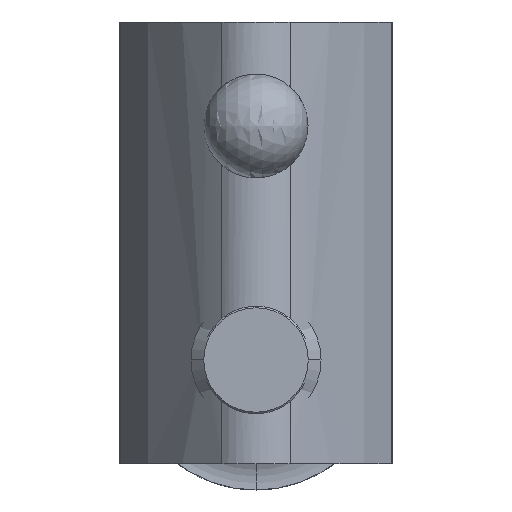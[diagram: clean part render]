
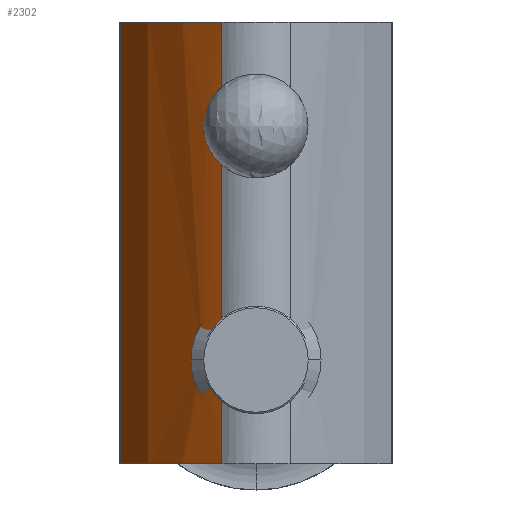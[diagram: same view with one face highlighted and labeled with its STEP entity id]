
A CAD part, left-side view. The second image highlights one B-rep face of the part: STEP entity #2302.
In plain terms, the highlighted cylindrical face has radius 16 mm (diameter 32 mm), a partial arc.
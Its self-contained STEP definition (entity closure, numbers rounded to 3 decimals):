
#32 = EDGE_CURVE ( 'NONE', #1247, #1109, #791, .T. ) ;
#70 = EDGE_CURVE ( 'NONE', #1044, #3565, #386, .T. ) ;
#148 = ORIENTED_EDGE ( 'NONE', *, *, #70, .T. ) ;
#176 = ORIENTED_EDGE ( 'NONE', *, *, #2068, .F. ) ;
#190 = EDGE_CURVE ( 'NONE', #308, #1832, #2228, .T. ) ;
#209 = CARTESIAN_POINT ( 'NONE',  ( -7.829, 1.842, 9.788 ) ) ;
#233 = ORIENTED_EDGE ( 'NONE', *, *, #1605, .T. ) ;
#236 = CARTESIAN_POINT ( 'NONE',  ( -7.61, 2.067, 0. ) ) ;
#246 = CARTESIAN_POINT ( 'NONE',  ( -7.906, 1.762, 8.036 ) ) ;
#257 = VERTEX_POINT ( 'NONE', #921 ) ;
#295 = ORIENTED_EDGE ( 'NONE', *, *, #2501, .F. ) ;
#308 = VERTEX_POINT ( 'NONE', #1561 ) ;
#343 = EDGE_LOOP ( 'NONE', ( #1753, #148, #176, #1943, #233, #1022, #295, #2687, #3377, #3245, #3619 ) ) ;
#352 = CARTESIAN_POINT ( 'NONE',  ( -7.759, 1.916, -0.791 ) ) ;
#386 = B_SPLINE_CURVE_WITH_KNOTS ( 'NONE', 3,
 ( #1627, #246, #1370, #834, #2771, #1123, #3629, #1923, #1938, #542, #2754, #209, #503, #3035 ),
 .UNSPECIFIED., .F., .F.,
 ( 4, 2, 2, 2, 2, 2, 4 ),
 ( 0., 0.001, 0.001, 0.001, 0.002, 0.002, 0.002 ),
 .UNSPECIFIED. ) ;
#414 = LINE ( 'NONE', #2695, #2737 ) ;
#418 = CARTESIAN_POINT ( 'NONE',  ( -8.31, 1.314, 10.508 ) ) ;
#430 = VERTEX_POINT ( 'NONE', #1654 ) ;
#438 = DIRECTION ( 'NONE',  ( -1., 0., 0. ) ) ;
#503 = CARTESIAN_POINT ( 'NONE',  ( -7.906, 1.762, 9.964 ) ) ;
#504 = CARTESIAN_POINT ( 'NONE',  ( -8., 1.66, 7.884 ) ) ;
#542 = CARTESIAN_POINT ( 'NONE',  ( -7.732, 1.943, 9.403 ) ) ;
#630 = CARTESIAN_POINT ( 'NONE',  ( -7.705, 1.971, 0.644 ) ) ;
#643 = AXIS2_PLACEMENT_3D ( 'NONE', #2504, #3057, #1632 ) ;
#644 = CARTESIAN_POINT ( 'NONE',  ( 3.75, -9.2, 13. ) ) ;
#661 = B_SPLINE_CURVE_WITH_KNOTS ( 'NONE', 3,
 ( #886, #1523, #2335, #3468, #352, #1224, #864, #2057, #3186, #2914 ),
 .UNSPECIFIED., .F., .F.,
 ( 4, 2, 2, 2, 4 ),
 ( 0.002, 0.002, 0.003, 0.003, 0.004 ),
 .UNSPECIFIED. ) ;
#791 = LINE ( 'NONE', #2476, #2064 ) ;
#834 = CARTESIAN_POINT ( 'NONE',  ( -7.752, 1.922, 8.497 ) ) ;
#835 = AXIS2_PLACEMENT_3D ( 'NONE', #2912, #993, #863 ) ;
#836 = CARTESIAN_POINT ( 'NONE',  ( -8.31, 1.314, 7.492 ) ) ;
#859 = EDGE_CURVE ( 'NONE', #2333, #1179, #3059, .T. ) ;
#863 = DIRECTION ( 'NONE',  ( 0., 1., 0. ) ) ;
#864 = CARTESIAN_POINT ( 'NONE',  ( -7.964, 1.699, -1.186 ) ) ;
#886 = CARTESIAN_POINT ( 'NONE',  ( -7.61, 2.067, 0. ) ) ;
#919 = FACE_OUTER_BOUND ( 'NONE', #343, .T. ) ;
#921 = CARTESIAN_POINT ( 'NONE',  ( -8.31, 1.314, -4. ) ) ;
#993 = DIRECTION ( 'NONE',  ( 0., 0., 1. ) ) ;
#1022 = ORIENTED_EDGE ( 'NONE', *, *, #859, .F. ) ;
#1044 = VERTEX_POINT ( 'NONE', #2401 ) ;
#1048 = DIRECTION ( 'NONE',  ( 0., 0., 1. ) ) ;
#1109 = VERTEX_POINT ( 'NONE', #3217 ) ;
#1123 = CARTESIAN_POINT ( 'NONE',  ( -7.706, 1.97, 8.794 ) ) ;
#1179 = VERTEX_POINT ( 'NONE', #1882 ) ;
#1224 = CARTESIAN_POINT ( 'NONE',  ( -7.889, 1.779, -1.064 ) ) ;
#1247 = VERTEX_POINT ( 'NONE', #2827 ) ;
#1288 = DIRECTION ( 'NONE',  ( 0., 0., 1. ) ) ;
#1309 = EDGE_CURVE ( 'NONE', #308, #430, #3050, .T. ) ;
#1327 = CIRCLE ( 'NONE', #643, 16. ) ;
#1365 = CIRCLE ( 'NONE', #2356, 16. ) ;
#1370 = CARTESIAN_POINT ( 'NONE',  ( -7.83, 1.841, 8.21 ) ) ;
#1421 = CARTESIAN_POINT ( 'NONE',  ( -7.61, 2.067, 0. ) ) ;
#1439 = CYLINDRICAL_SURFACE ( 'NONE', #835, 16. ) ;
#1523 = CARTESIAN_POINT ( 'NONE',  ( -7.61, 2.067, -0.166 ) ) ;
#1561 = CARTESIAN_POINT ( 'NONE',  ( -8.31, 1.314, 1.595 ) ) ;
#1569 = CARTESIAN_POINT ( 'NONE',  ( -8.198, 1.443, 10.395 ) ) ;
#1605 = EDGE_CURVE ( 'NONE', #1109, #1179, #1365, .T. ) ;
#1612 = VERTEX_POINT ( 'NONE', #3000 ) ;
#1627 = CARTESIAN_POINT ( 'NONE',  ( -8., 1.66, 7.884 ) ) ;
#1632 = DIRECTION ( 'NONE',  ( -1., 0., 0. ) ) ;
#1654 = CARTESIAN_POINT ( 'NONE',  ( -8.31, 1.314, 7.492 ) ) ;
#1664 = CARTESIAN_POINT ( 'NONE',  ( -8.198, 1.443, 7.605 ) ) ;
#1731 = CARTESIAN_POINT ( 'NONE',  ( -7.61, 2.067, 0.166 ) ) ;
#1753 = ORIENTED_EDGE ( 'NONE', *, *, #3068, .F. ) ;
#1814 = CARTESIAN_POINT ( 'NONE',  ( -8., 1.66, 10.116 ) ) ;
#1832 = VERTEX_POINT ( 'NONE', #236 ) ;
#1863 = CARTESIAN_POINT ( 'NONE',  ( -8.094, 1.559, 10.266 ) ) ;
#1882 = CARTESIAN_POINT ( 'NONE',  ( -3.218, 5.203, 13. ) ) ;
#1923 = CARTESIAN_POINT ( 'NONE',  ( -7.699, 1.977, 9.102 ) ) ;
#1938 = CARTESIAN_POINT ( 'NONE',  ( -7.705, 1.97, 9.203 ) ) ;
#1943 = ORIENTED_EDGE ( 'NONE', *, *, #32, .T. ) ;
#1994 = CARTESIAN_POINT ( 'NONE',  ( -7.889, 1.779, 1.063 ) ) ;
#2019 = VECTOR ( 'NONE', #3282, 1000. ) ;
#2057 = CARTESIAN_POINT ( 'NONE',  ( -8.128, 1.52, -1.408 ) ) ;
#2064 = VECTOR ( 'NONE', #1048, 1000. ) ;
#2068 = EDGE_CURVE ( 'NONE', #1247, #3565, #2741, .T. ) ;
#2160 = DIRECTION ( 'NONE',  ( 0., 0., 1. ) ) ;
#2166 = EDGE_CURVE ( 'NONE', #257, #1612, #414, .T. ) ;
#2189 = CARTESIAN_POINT ( 'NONE',  ( -3.218, 5.203, -4. ) ) ;
#2228 = B_SPLINE_CURVE_WITH_KNOTS ( 'NONE', 3,
 ( #3439, #3188, #3683, #3454, #1994, #3169, #630, #2322, #1731, #1421 ),
 .UNSPECIFIED., .F., .F.,
 ( 4, 2, 2, 2, 4 ),
 ( 0., 0., 0.001, 0.001, 0.002 ),
 .UNSPECIFIED. ) ;
#2302 = ADVANCED_FACE ( 'NONE', ( #919 ), #1439, .T. ) ;
#2322 = CARTESIAN_POINT ( 'NONE',  ( -7.63, 2.047, 0.33 ) ) ;
#2333 = VERTEX_POINT ( 'NONE', #2871 ) ;
#2335 = CARTESIAN_POINT ( 'NONE',  ( -7.63, 2.047, -0.329 ) ) ;
#2356 = AXIS2_PLACEMENT_3D ( 'NONE', #644, #2386, #438 ) ;
#2386 = DIRECTION ( 'NONE',  ( 0., 0., -1. ) ) ;
#2401 = CARTESIAN_POINT ( 'NONE',  ( -8., 1.66, 7.884 ) ) ;
#2476 = CARTESIAN_POINT ( 'NONE',  ( -8.31, 1.314, -4. ) ) ;
#2501 = EDGE_CURVE ( 'NONE', #257, #2333, #1327, .T. ) ;
#2504 = CARTESIAN_POINT ( 'NONE',  ( 3.75, -9.2, -4. ) ) ;
#2527 = B_SPLINE_CURVE_WITH_KNOTS ( 'NONE', 3,
 ( #504, #3069, #1664, #836 ),
 .UNSPECIFIED., .F., .F.,
 ( 4, 4 ),
 ( 0., 0.001 ),
 .UNSPECIFIED. ) ;
#2687 = ORIENTED_EDGE ( 'NONE', *, *, #2166, .T. ) ;
#2695 = CARTESIAN_POINT ( 'NONE',  ( -8.31, 1.314, -4. ) ) ;
#2737 = VECTOR ( 'NONE', #1288, 1000. ) ;
#2741 = B_SPLINE_CURVE_WITH_KNOTS ( 'NONE', 3,
 ( #418, #1569, #1863, #3514 ),
 .UNSPECIFIED., .F., .F.,
 ( 4, 4 ),
 ( 0., 0.001 ),
 .UNSPECIFIED. ) ;
#2754 = CARTESIAN_POINT ( 'NONE',  ( -7.752, 1.922, 9.503 ) ) ;
#2770 = CARTESIAN_POINT ( 'NONE',  ( -8.31, 1.314, -4. ) ) ;
#2771 = CARTESIAN_POINT ( 'NONE',  ( -7.732, 1.943, 8.594 ) ) ;
#2827 = CARTESIAN_POINT ( 'NONE',  ( -8.31, 1.314, 10.508 ) ) ;
#2871 = CARTESIAN_POINT ( 'NONE',  ( -3.218, 5.203, -4. ) ) ;
#2912 = CARTESIAN_POINT ( 'NONE',  ( 3.75, -9.2, -4. ) ) ;
#2914 = CARTESIAN_POINT ( 'NONE',  ( -8.31, 1.314, -1.595 ) ) ;
#3000 = CARTESIAN_POINT ( 'NONE',  ( -8.31, 1.314, -1.595 ) ) ;
#3035 = CARTESIAN_POINT ( 'NONE',  ( -8., 1.66, 10.116 ) ) ;
#3050 = LINE ( 'NONE', #2770, #3382 ) ;
#3057 = DIRECTION ( 'NONE',  ( 0., 0., -1. ) ) ;
#3059 = LINE ( 'NONE', #2189, #2019 ) ;
#3068 = EDGE_CURVE ( 'NONE', #1044, #430, #2527, .T. ) ;
#3069 = CARTESIAN_POINT ( 'NONE',  ( -8.094, 1.559, 7.734 ) ) ;
#3169 = CARTESIAN_POINT ( 'NONE',  ( -7.759, 1.915, 0.792 ) ) ;
#3186 = CARTESIAN_POINT ( 'NONE',  ( -8.218, 1.421, -1.508 ) ) ;
#3188 = CARTESIAN_POINT ( 'NONE',  ( -8.218, 1.421, 1.508 ) ) ;
#3217 = CARTESIAN_POINT ( 'NONE',  ( -8.31, 1.314, 13. ) ) ;
#3245 = ORIENTED_EDGE ( 'NONE', *, *, #190, .F. ) ;
#3282 = DIRECTION ( 'NONE',  ( 0., 0., 1. ) ) ;
#3377 = ORIENTED_EDGE ( 'NONE', *, *, #3473, .F. ) ;
#3382 = VECTOR ( 'NONE', #2160, 1000. ) ;
#3439 = CARTESIAN_POINT ( 'NONE',  ( -8.31, 1.314, 1.595 ) ) ;
#3454 = CARTESIAN_POINT ( 'NONE',  ( -7.966, 1.698, 1.188 ) ) ;
#3468 = CARTESIAN_POINT ( 'NONE',  ( -7.705, 1.971, -0.644 ) ) ;
#3473 = EDGE_CURVE ( 'NONE', #1832, #1612, #661, .T. ) ;
#3514 = CARTESIAN_POINT ( 'NONE',  ( -8., 1.66, 10.116 ) ) ;
#3565 = VERTEX_POINT ( 'NONE', #1814 ) ;
#3619 = ORIENTED_EDGE ( 'NONE', *, *, #1309, .T. ) ;
#3629 = CARTESIAN_POINT ( 'NONE',  ( -7.699, 1.977, 8.897 ) ) ;
#3683 = CARTESIAN_POINT ( 'NONE',  ( -8.13, 1.519, 1.409 ) ) ;
